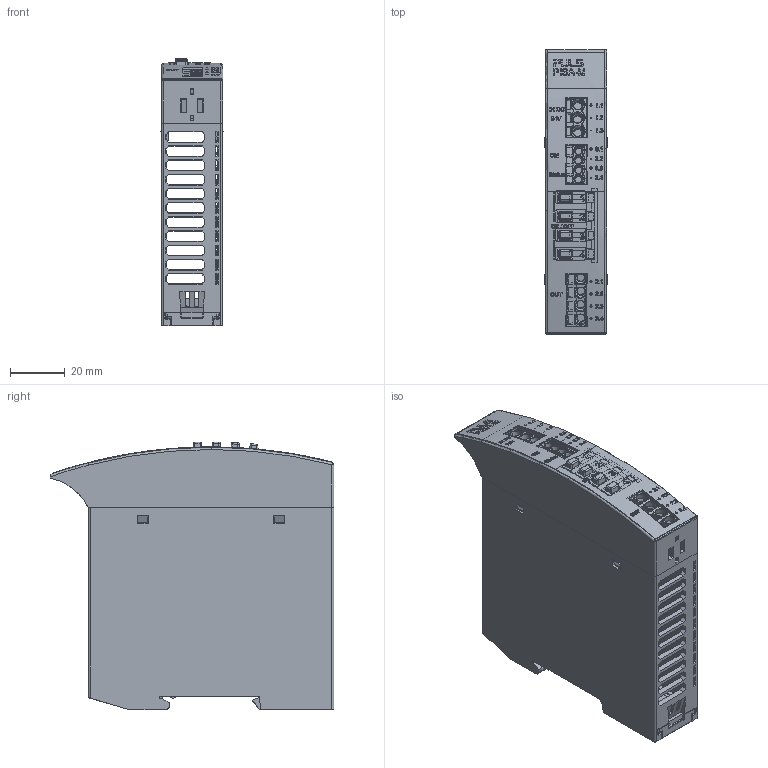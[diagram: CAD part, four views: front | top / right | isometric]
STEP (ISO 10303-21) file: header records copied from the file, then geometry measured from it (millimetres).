
FILE_DESCRIPTION (( 'STEP AP214' ), '1' );
FILE_NAME ('PISA-M-4ADJ-2001257-0C.STEP', '2025-07-15T13:06:07', ( '' ), ( '' ), 'SwSTEP 2.0', 'SolidWorks 2024', '' );
FILE_SCHEMA (( 'AUTOMOTIVE_DESIGN' ));
Length unit declared in the file: millimetre
Products named in the file (1): PISA-M-4ADJ-2001257-0C
Bounding box: 22.74 x 104.01 x 98.1 mm (x, y, z)
Volume: 51556.9 mm3; surface area: 62390.2 mm2
Topology: 7 solids, 7 shells, 3437 faces, 9906 edges, 6617 vertices
Faces by surface type: plane 2075, cylinder 749, bspline 436, sphere 82, torus 60, cone 35
Entity records: 168969 total; most frequent: CARTESIAN_POINT 44814, ORIENTED_EDGE 19714, DIRECTION 15392, EDGE_CURVE 9857, VERTEX_POINT 6613, VECTOR 6412, LINE 6412, AXIS2_PLACEMENT_3D 4490
